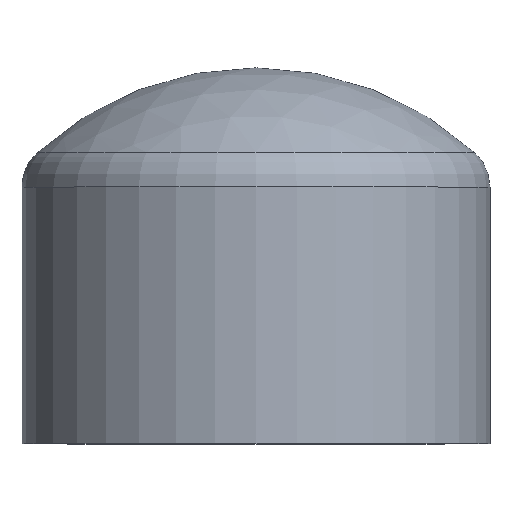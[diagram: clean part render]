
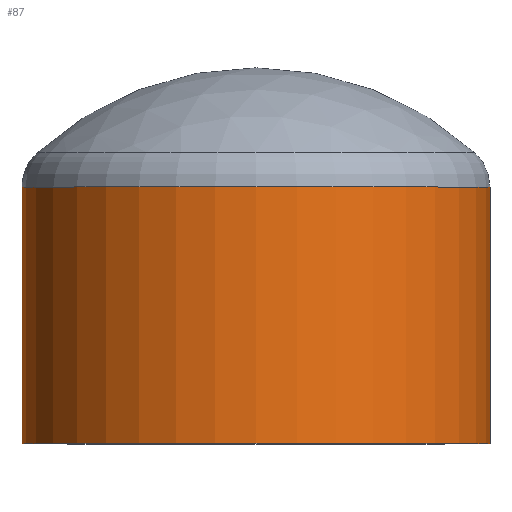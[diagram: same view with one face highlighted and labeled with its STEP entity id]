
A CAD part, top view. The second image highlights one B-rep face of the part: STEP entity #87.
In plain terms, the highlighted cylindrical face has radius 30.5 mm (diameter 61 mm), a full revolution.
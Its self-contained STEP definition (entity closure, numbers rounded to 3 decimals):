
#20=CYLINDRICAL_SURFACE('',#98,30.5);
#23=FACE_BOUND('',#37,.T.);
#28=FACE_OUTER_BOUND('',#36,.T.);
#36=EDGE_LOOP('',(#71));
#37=EDGE_LOOP('',(#72));
#46=CIRCLE('',#96,30.5);
#48=CIRCLE('',#99,30.5);
#53=VERTEX_POINT('',#138);
#55=VERTEX_POINT('',#143);
#61=EDGE_CURVE('',#53,#53,#46,.T.);
#63=EDGE_CURVE('',#55,#55,#48,.T.);
#71=ORIENTED_EDGE('',*,*,#63,.T.);
#72=ORIENTED_EDGE('',*,*,#61,.F.);
#87=ADVANCED_FACE('',(#28,#23),#20,.T.);
#96=AXIS2_PLACEMENT_3D('',#139,#112,#113);
#98=AXIS2_PLACEMENT_3D('',#142,#116,#117);
#99=AXIS2_PLACEMENT_3D('',#144,#118,#119);
#112=DIRECTION('center_axis',(0.,1.,0.));
#113=DIRECTION('ref_axis',(1.,0.,0.));
#116=DIRECTION('center_axis',(0.,1.,0.));
#117=DIRECTION('ref_axis',(-1.,0.,0.));
#118=DIRECTION('center_axis',(0.,1.,0.));
#119=DIRECTION('ref_axis',(1.,0.,0.));
#138=CARTESIAN_POINT('',(-30.5,33.433,0.));
#139=CARTESIAN_POINT('Origin',(0.,33.433,0.));
#142=CARTESIAN_POINT('Origin',(0.,18.,0.));
#143=CARTESIAN_POINT('',(-30.5,0.,0.));
#144=CARTESIAN_POINT('Origin',(0.,0.,0.));
